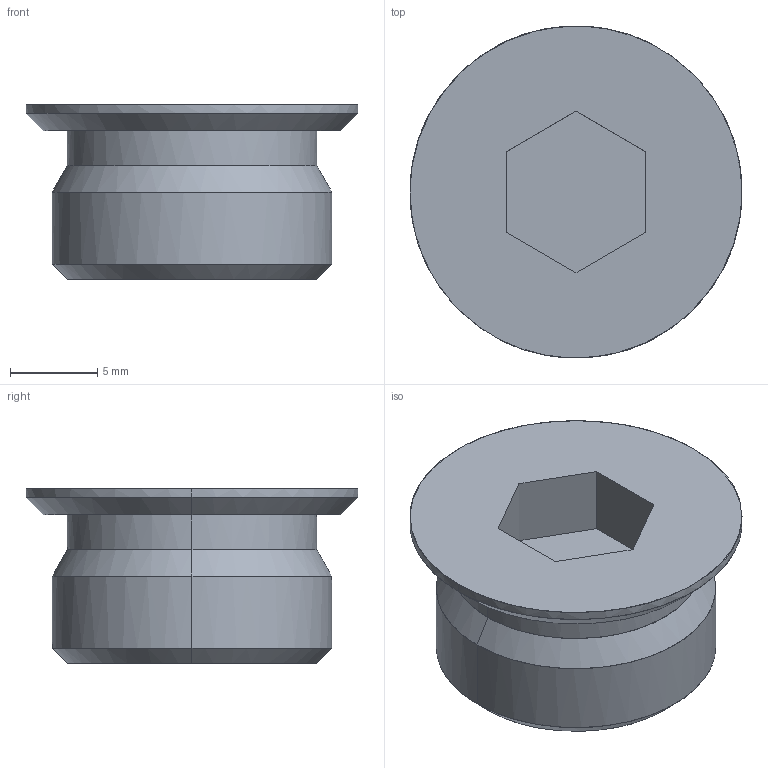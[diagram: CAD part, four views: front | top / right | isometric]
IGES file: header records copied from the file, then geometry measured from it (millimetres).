
Global section: file name: E:\UnigraphicsGraphicData\MISUMI_PRESS-PARTS\IGES\3d_mswzs16-10_00491_r00.igs; native system: NX V5.0; preprocessor: UGS NX IGES V5.0; author: MISUMI; date: 20110105.161530; units: millimetre
Bounding box: 19 x 19 x 10 mm (x, y, z)
Surface area: 1170.9 mm2 (no closed solid volume)
Topology: 0 solids, 0 shells, 22 faces, 116 edges, 116 vertices
Faces by surface type: bspline 22
